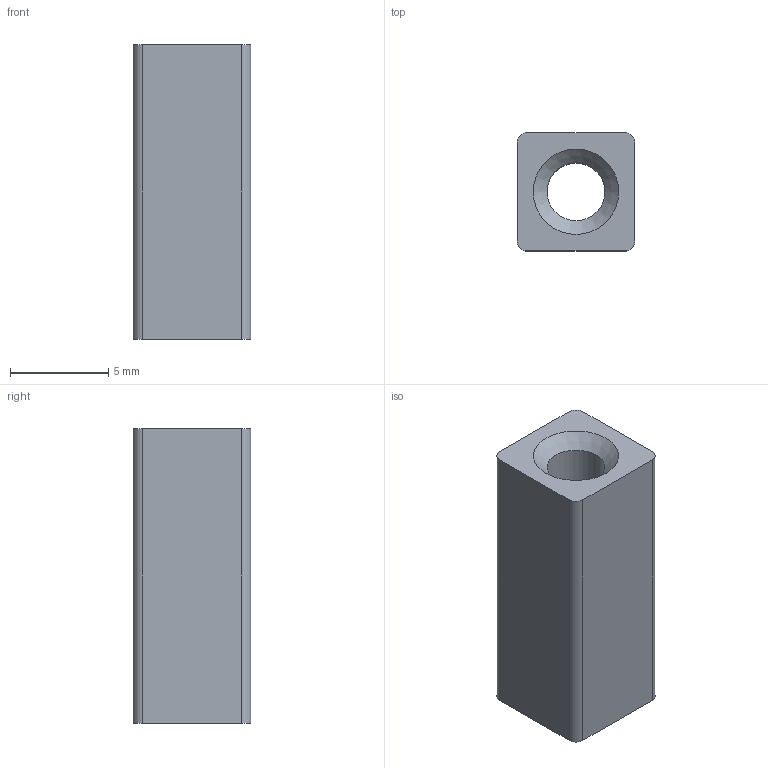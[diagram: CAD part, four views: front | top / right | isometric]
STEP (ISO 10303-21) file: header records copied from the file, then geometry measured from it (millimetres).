
FILE_DESCRIPTION(('FreeCAD Model'),'2;1');
FILE_NAME('Open CASCADE Shape Model','2026-08-19T12:02:53',('Author'),( ''),'Open CASCADE STEP processor 7.8','FreeCAD','Unknown');
FILE_SCHEMA(('AUTOMOTIVE_DESIGN { 1 0 10303 214 1 1 1 1 }'));
Length unit declared in the file: millimetre
Products named in the file (1): Body
Bounding box: 6 x 6 x 15 mm (x, y, z)
Volume: 429 mm3; surface area: 537.7 mm2
Topology: 1 solids, 1 shells, 13 faces, 31 edges, 20 vertices
Faces by surface type: plane 6, cylinder 5, cone 2
Full cylindrical faces by diameter (mm): 2.95 x1
Entity records: 407 total; most frequent: DIRECTION 71, CARTESIAN_POINT 65, ORIENTED_EDGE 62, EDGE_CURVE 31, AXIS2_PLACEMENT_3D 26, VERTEX_POINT 20, LINE 19, VECTOR 19
